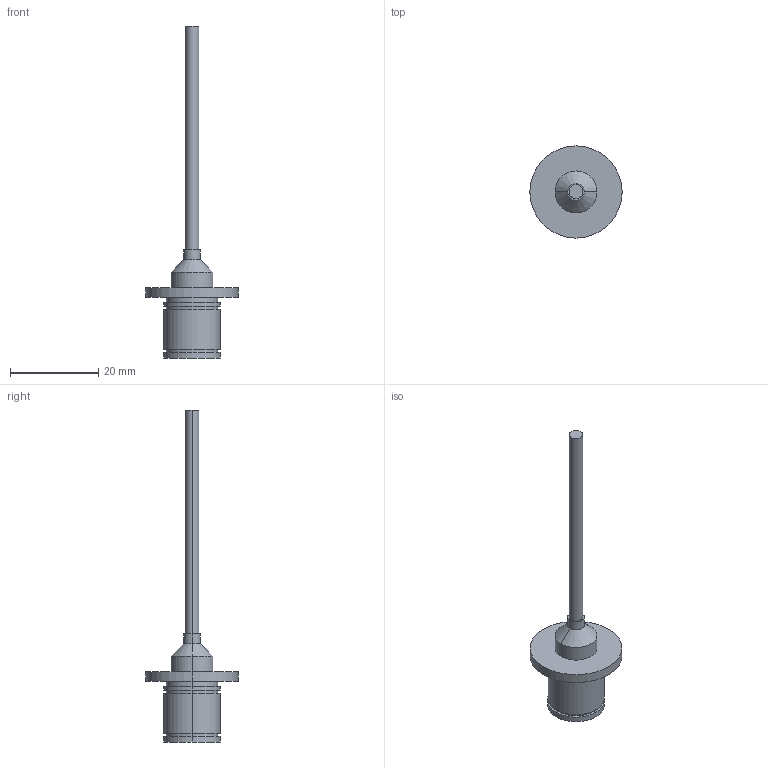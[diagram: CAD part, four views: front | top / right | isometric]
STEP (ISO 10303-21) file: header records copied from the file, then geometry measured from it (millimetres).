
FILE_DESCRIPTION (( 'STEP AP203' ), '1' );
FILE_NAME ('KD-1950 Flanged.STEP', '2010-03-05T19:02:44', ( 'tom edwards' ), ( 'Tom J. Edwards' ), 'SwSTEP 2.0', 'SolidWorks 2008', '' );
FILE_SCHEMA (( 'CONFIG_CONTROL_DESIGN' ));
Length unit declared in the file: inch
Products named in the file (1): KD-1950 Flanged
Bounding box: 20.95 x 20.95 x 75.36 mm (x, y, z)
Volume: 3254.4 mm3; surface area: 2167.6 mm2
Topology: 1 solids, 1 shells, 32 faces, 62 edges, 40 vertices
Faces by surface type: cylinder 20, plane 10, cone 2
Entity records: 913 total; most frequent: DIRECTION 168, CARTESIAN_POINT 135, ORIENTED_EDGE 124, AXIS2_PLACEMENT_3D 73, EDGE_CURVE 62, EDGE_LOOP 40, VERTEX_POINT 40, CIRCLE 40
